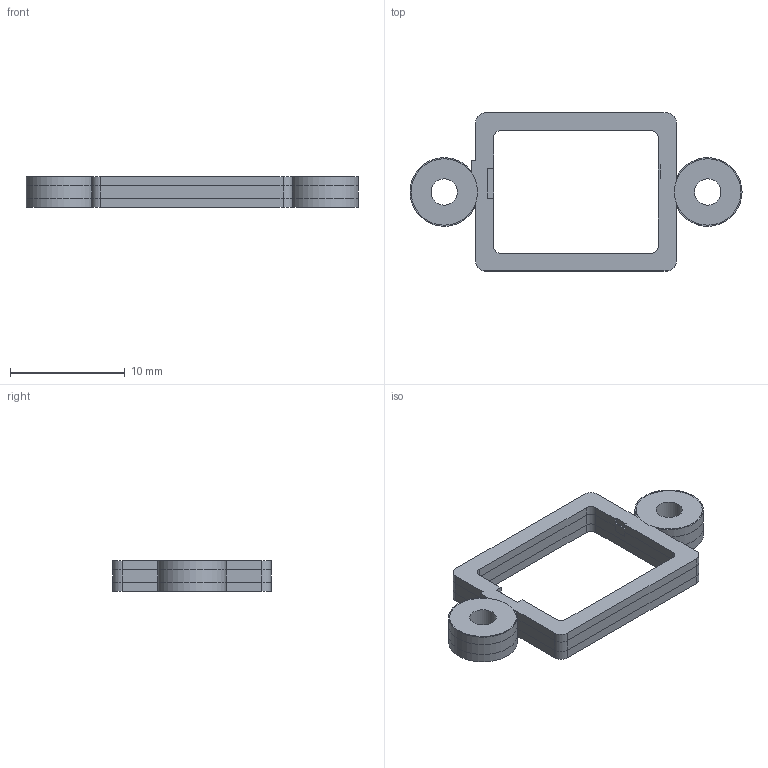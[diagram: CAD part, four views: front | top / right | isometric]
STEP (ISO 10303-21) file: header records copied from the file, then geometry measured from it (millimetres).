
FILE_DESCRIPTION(('Open CASCADE Model'),'2;1');
FILE_NAME('Open CASCADE Shape Model','2026-09-15T13:32:13',('Author'),( 'Open CASCADE'),'Open CASCADE STEP processor 7.7','Open CASCADE 7.7' ,'Unknown');
FILE_SCHEMA(('AUTOMOTIVE_DESIGN { 1 0 10303 214 1 1 1 1 }'));
Length unit declared in the file: millimetre
Products named in the file (1): R36_P13_Durable_Retainer
Bounding box: 28.99 x 13.8 x 2.65 mm (x, y, z)
Volume: 339.2 mm3; surface area: 683.9 mm2
Topology: 1 solids, 1 shells, 86 faces, 204 edges, 126 vertices
Faces by surface type: plane 52, cylinder 34
Full cylindrical faces by diameter (mm): 2.3 x2, 4.4 x2
Entity records: 5170 total; most frequent: CARTESIAN_POINT 933, DIRECTION 822, LINE 520, VECTOR 520, ORIENTED_EDGE 408, PCURVE 408, DEFINITIONAL_REPRESENTATION 408, EDGE_CURVE 204
